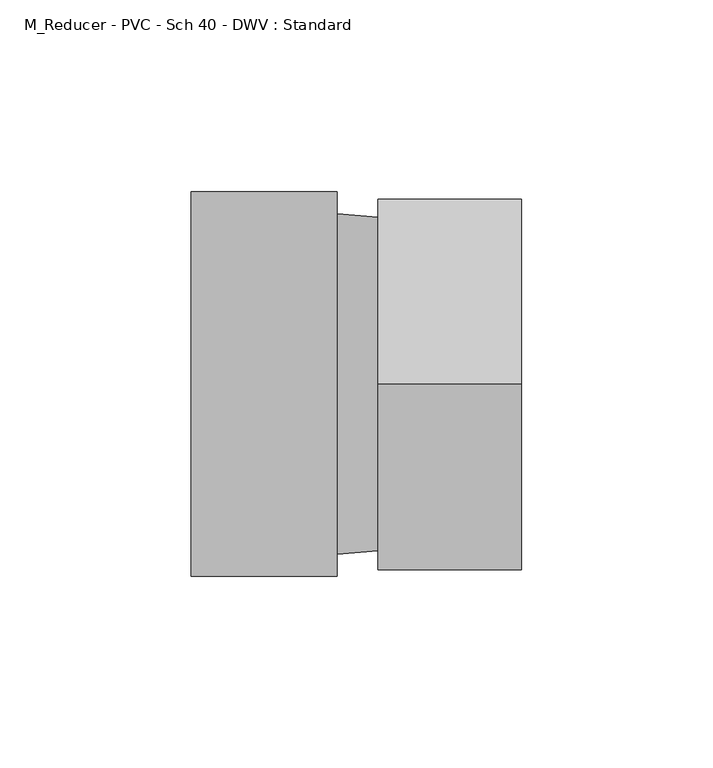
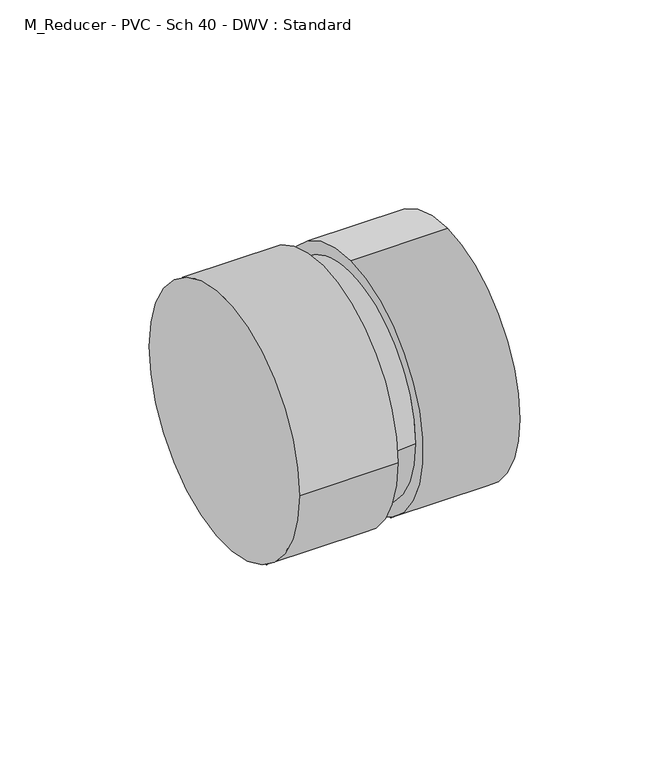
"""IFC4 building model written with IfcOpenShell, lengths in millimetres: pipe fitting geometry, M_Reducer - PVC - Sch 40 - DWV : Standard."""

from ifc_helpers import new_model, si_unit, frame, origin, place, context, project, spatial, polyline, circle_curve, source, transform, mapped, element, save
from ifc_brep_helpers import plane_surface, cylinder_surface, revolved_surface, advanced_brep


def m_reducer_pvc_sch_40_dwv_standard_4f19a4ed(model_context):
    return source(origin(), model_context, "Body", "AdvancedBrep", [
        advanced_brep(
        [(0.0, -50.2666, 0.0), (0.0, 50.2666, 0.0), (38.1, -50.2666, 0.0), (38.1, 50.2666, 0.0), (38.1, 44.45, 0.0), (38.1, -44.45, 0.0), (48.7460938, 43.5640625, 0.0), (48.7460937, -43.5640625, 0.0), (48.7460938, 0.0, 48.4871094), (48.7460938, 0.0, -48.4871094), (86.2460938, 0.0, 48.4871094), (86.2460938, 0.0, -48.4871094)],
        [
            (0, 1, circle_curve(frame((0.0, 0.0, 0.0), z_axis=(-1.0, 0.0, 0.0), x_axis=(0.0, 1.0, 0.0)), 50.2666)),
            (1, 0, circle_curve(frame((0.0, 0.0, 0.0), z_axis=(-1.0, 0.0, 0.0), x_axis=(0.0, 1.0, 0.0)), 50.2666)),
            (2, 3, circle_curve(frame((38.1, 0.0, 0.0), z_axis=(1.0, 0.0, 0.0), x_axis=(0.0, 1.0, 0.0)), 50.2666)),
            (3, 2, circle_curve(frame((38.1, 0.0, 0.0), z_axis=(1.0, 0.0, 0.0), x_axis=(0.0, 1.0, 0.0)), 50.2666)),
            (4, 5, circle_curve(frame((38.1, 0.0, 0.0), z_axis=(-1.0, 0.0, 0.0), x_axis=(0.0, -1.0, 0.0)), 44.45)),
            (5, 4, circle_curve(frame((38.1, 0.0, 0.0), z_axis=(-1.0, 0.0, 0.0), x_axis=(0.0, 1.0, 0.0)), 44.45)),
            (0, 2),
            (3, 1),
            (4, 6),
            (6, 7, circle_curve(frame((48.7460938, 0.0, 0.0), z_axis=(-1.0, 0.0, 0.0), x_axis=(0.0, -1.0, 0.0)), 43.5640625)),
            (7, 5),
            (7, 6, circle_curve(frame((48.7460938, 0.0, 0.0), z_axis=(-1.0, 0.0, 0.0), x_axis=(0.0, 1.0, 0.0)), 43.5640625)),
            (8, 9, circle_curve(frame((48.7460938, 0.0, 0.0), z_axis=(-1.0, 0.0, 0.0), x_axis=(0.0, 0.0, -1.0)), 48.4871094)),
            (9, 8, circle_curve(frame((48.7460938, 0.0, 0.0), z_axis=(-1.0, 0.0, 0.0), x_axis=(0.0, 0.0, -1.0)), 48.4871094)),
            (10, 11, circle_curve(frame((86.2460938, 0.0, 0.0), z_axis=(1.0, 0.0, 0.0), x_axis=(0.0, 0.0, -1.0)), 48.4871094)),
            (11, 10, circle_curve(frame((86.2460938, 0.0, 0.0), z_axis=(1.0, 0.0, 0.0), x_axis=(0.0, 0.0, -1.0)), 48.4871094)),
            (8, 10),
            (11, 9),
        ],
        [
            plane_surface(frame((0.0, 0.0, 0.0), z_axis=(-1.0, 0.0, 0.0), x_axis=(0.0, 0.0, 1.0))),
            plane_surface(frame((38.1, 0.0, 0.0), z_axis=(1.0, 0.0, 0.0), x_axis=(0.0, 0.0, 1.0))),
            cylinder_surface(frame((0.0, 0.0, 0.0), z_axis=(-1.0, 0.0, 0.0), x_axis=(0.0, 1.0, 0.0)), 50.2666),
            revolved_surface(polyline([(48.74609380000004, 43.56406249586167, 0.0), (38.10000000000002, 44.45, 0.0)]), (572.2447531, 0.0, 0.0), (-1.0, 0.0, 0.0)),
            plane_surface(frame((48.7460938, 0.0, 0.0), z_axis=(-1.0, 0.0, 0.0), x_axis=(0.0, 1.0, 0.0))),
            plane_surface(frame((86.2460938, 0.0, 0.0), z_axis=(1.0, 0.0, 0.0), x_axis=(0.0, 1.0, 0.0))),
            cylinder_surface(frame((48.7460938, 0.0, 0.0), z_axis=(-1.0, 0.0, 0.0), x_axis=(0.0, 0.0, -1.0)), 48.4871094),
        ],
        [
            (0, [[1, 2]]),
            (1, [[3, 4], [5, 6]]),
            (2, [[-1, 7, -4, 8]]),
            (2, [[-2, -8, -3, -7]]),
            (3, [[9, 10, 11, -5]]),
            (3, [[-9, -6, -11, 12]]),
            (4, [[13, 14], [-10, -12]]),
            (5, [[15, 16]]),
            (6, [[-13, 17, -16, 18]]),
            (6, [[-14, -18, -15, -17]]),
        ],
    ),
    ])


if __name__ == "__main__":
    model = new_model("IFC4")
    model_context = context("Model", 3, world=origin())
    ifc_project = project(units=[si_unit("LENGTHUNIT", "METRE", prefix="MILLI")], contexts=[model_context])
    site = spatial("IfcSite", under=ifc_project)
    building = spatial("IfcBuilding", under=site)
    placement = place(None, origin())
    m_reducer_pvc_sch_40_dwv_standard_shape = m_reducer_pvc_sch_40_dwv_standard_4f19a4ed(model_context)
    element("IfcPipeFitting", 1, ObjectType="M_Reducer - PVC - Sch 40 - DWV : Standard", at=placement, inside=building, context=model_context, shape_type="MappedRepresentation", body=[
        mapped(m_reducer_pvc_sch_40_dwv_standard_shape, transform((0.0, 0.0, 0.0), x_axis=(1.0, 0.0, 0.0), y_axis=(0.0, 1.0, 0.0), z_axis=(0.0, 0.0, 1.0))),
    ])
    save(model, "model.ifc")
